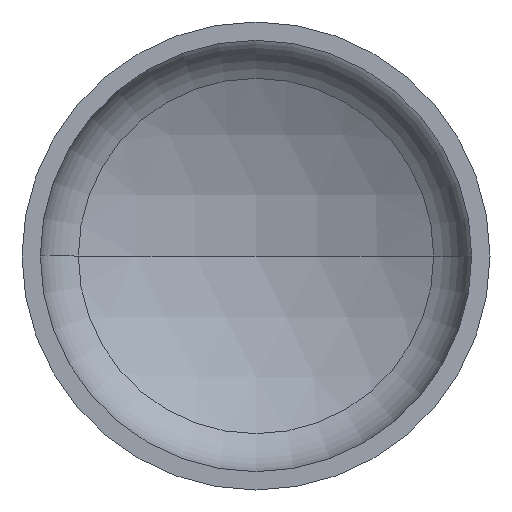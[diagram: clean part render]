
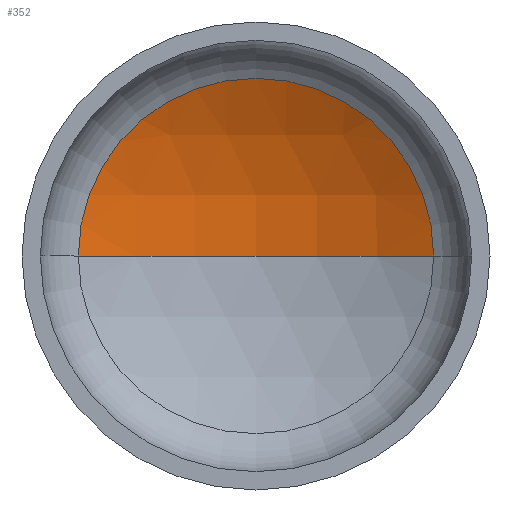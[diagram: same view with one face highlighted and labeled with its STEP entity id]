
A CAD part, front view. The second image highlights one B-rep face of the part: STEP entity #352.
In plain terms, the highlighted spherical face has radius 880 mm.
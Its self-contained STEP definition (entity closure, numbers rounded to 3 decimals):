
#5 = AXIS2_PLACEMENT_3D ( 'NONE', #144, #302, #161 ) ;
#7 = AXIS2_PLACEMENT_3D ( 'NONE', #397, #269, #316 ) ;
#8 = VERTEX_POINT ( 'NONE', #244 ) ;
#12 = AXIS2_PLACEMENT_3D ( 'NONE', #363, #170, #227 ) ;
#14 = EDGE_LOOP ( 'NONE', ( #46, #401, #36 ) ) ;
#36 = ORIENTED_EDGE ( 'NONE', *, *, #380, .T. ) ;
#46 = ORIENTED_EDGE ( 'NONE', *, *, #348, .F. ) ;
#91 = VERTEX_POINT ( 'NONE', #354 ) ;
#122 = VERTEX_POINT ( 'NONE', #306 ) ;
#144 = CARTESIAN_POINT ( 'NONE',  ( 0., -494.925, 0. ) ) ;
#147 = FACE_OUTER_BOUND ( 'NONE', #14, .T. ) ;
#157 = DIRECTION ( 'NONE',  ( 1., 0., 0. ) ) ;
#161 = DIRECTION ( 'NONE',  ( -1., 0., 0. ) ) ;
#170 = DIRECTION ( 'NONE',  ( 0., 0., 1. ) ) ;
#189 = CIRCLE ( 'NONE', #322, 417.69 ) ;
#210 = CARTESIAN_POINT ( 'NONE',  ( 0., 279.63, 0. ) ) ;
#227 = DIRECTION ( 'NONE',  ( 1., 0., 0. ) ) ;
#244 = CARTESIAN_POINT ( 'NONE',  ( 417.69, 279.63, 0. ) ) ;
#259 = SPHERICAL_SURFACE ( 'NONE', #7, 880. ) ;
#269 = DIRECTION ( 'NONE',  ( 0., 0., -1. ) ) ;
#302 = DIRECTION ( 'NONE',  ( 0., 0., -1. ) ) ;
#306 = CARTESIAN_POINT ( 'NONE',  ( 0., 385.075, 0. ) ) ;
#316 = DIRECTION ( 'NONE',  ( -1., 0., 0. ) ) ;
#322 = AXIS2_PLACEMENT_3D ( 'NONE', #210, #385, #157 ) ;
#329 = CIRCLE ( 'NONE', #5, 880. ) ;
#348 = EDGE_CURVE ( 'NONE', #122, #91, #396, .T. ) ;
#352 = ADVANCED_FACE ( 'NONE', ( #147 ), #259, .F. ) ;
#354 = CARTESIAN_POINT ( 'NONE',  ( -417.69, 279.63, 0. ) ) ;
#363 = CARTESIAN_POINT ( 'NONE',  ( 0., -494.925, 0. ) ) ;
#374 = EDGE_CURVE ( 'NONE', #122, #8, #329, .T. ) ;
#380 = EDGE_CURVE ( 'NONE', #8, #91, #189, .T. ) ;
#385 = DIRECTION ( 'NONE',  ( 0., -1., 0. ) ) ;
#396 = CIRCLE ( 'NONE', #12, 880. ) ;
#397 = CARTESIAN_POINT ( 'NONE',  ( 0., -494.925, 0. ) ) ;
#401 = ORIENTED_EDGE ( 'NONE', *, *, #374, .T. ) ;
